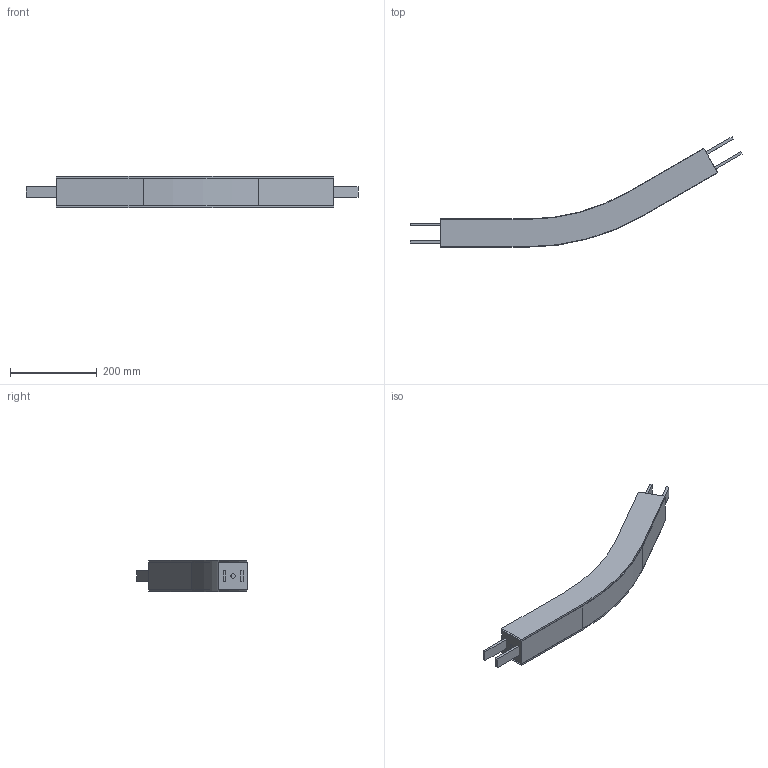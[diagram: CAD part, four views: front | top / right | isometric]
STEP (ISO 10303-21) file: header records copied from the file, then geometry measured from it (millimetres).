
FILE_DESCRIPTION(/* description */ ('Horizontaler Gleitbogen, 30°, R500'),/* implementation_level */ '2;1');
FILE_NAME(/* name */ 'T:\vdz0\Step Daten Website\modulflex FL-System\Horizontale Gleitbögen\FLBP 30R500_43638.stp',/* time_stamp */ '2024-09-03T09:37:02+02:00',/* author */ ('lzb0'),/* organization */ ('modular automation GmbH'),/* preprocessor_version */ 'ST-DEVELOPER v18.1',/* originating_system */ 'Autodesk Inventor 2021',/* authorisation */ '');
FILE_SCHEMA (('AUTOMOTIVE_DESIGN { 1 0 10303 214 3 1 1 }'));
Length unit declared in the file: millimetre
Products named in the file (1): FLBP 30R500
Bounding box: 765.33 x 254.41 x 73 mm (x, y, z)
Volume: 2837085.5 mm3; surface area: 394298.4 mm2
Topology: 5 solids, 9 shells, 52 faces, 126 edges, 84 vertices
Faces by surface type: plane 44, cylinder 8
Full cylindrical faces by diameter (mm): 10 x2
Entity records: 1596 total; most frequent: CARTESIAN_POINT 270, DIRECTION 250, ORIENTED_EDGE 232, EDGE_CURVE 126, LINE 110, VECTOR 110, VERTEX_POINT 84, AXIS2_PLACEMENT_3D 70
